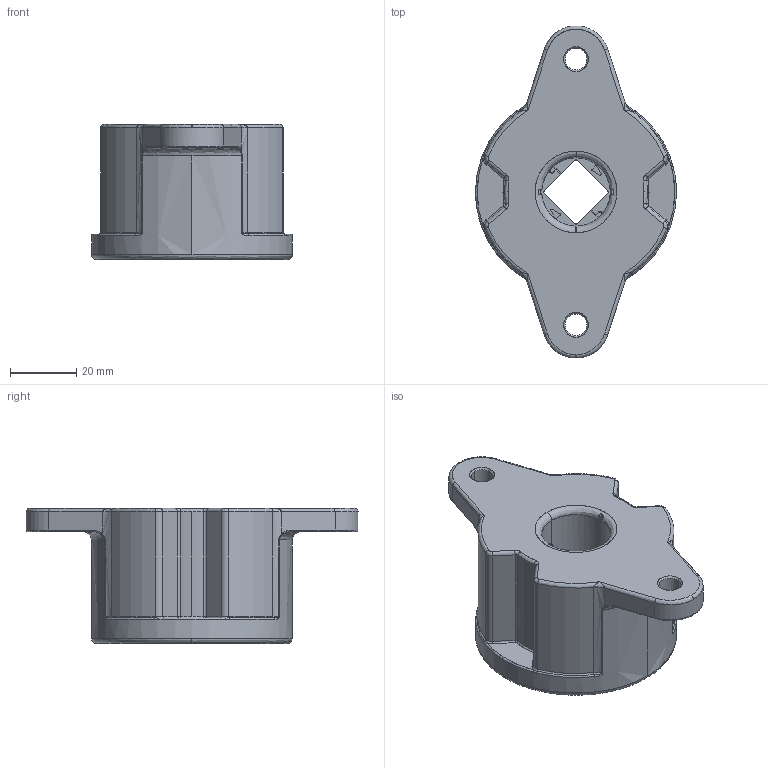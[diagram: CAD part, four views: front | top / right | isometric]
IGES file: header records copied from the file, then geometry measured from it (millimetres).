
Start section: SolidWorks IGES file using analytic representation for surfaces
Global section: file name: T:\共有\電子カタログ\180531 カタログデータ\FYN-Z2-L354_3D_MODEL.IGS; native system: SolidWorks 2018; preprocessor: SolidWorks 2018; author: flgijutsu; date: 180531.134237; units: millimetre
Bounding box: 60.5 x 99.96 x 40.7 mm (x, y, z)
Surface area: 18956.8 mm2 (no closed solid volume)
Topology: 0 solids, 0 shells, 220 faces, 1971 edges, 1969 vertices
Faces by surface type: bspline 129, revolution 91
